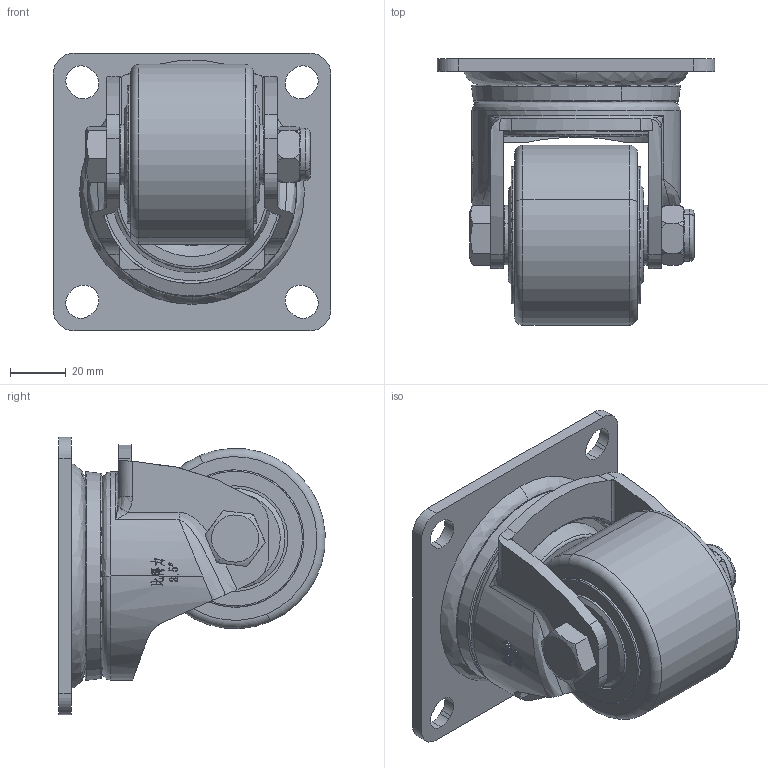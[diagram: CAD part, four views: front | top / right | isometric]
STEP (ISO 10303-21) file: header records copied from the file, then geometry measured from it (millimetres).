
FILE_DESCRIPTION (( 'STEP AP203' ), '1' );
FILE_NAME ('2.5寸万向（100＊100）.STEP', '2023-07-19T03:48:46', ( 'Microsoft' ), ( 'Microsoft' ), 'SwSTEP 2.0', 'SolidWorks 2016', '' );
FILE_SCHEMA (( 'CONFIG_CONTROL_DESIGN' ));
Length unit declared in the file: millimetre
Products named in the file (3): 2.5渡謫赽ㄗ65ㄙ47ㄘ; 2.5寸万向（100＊100）; 2.5寸万向（100＊100）-上托架
Assembly tree (2 placements, depth 2):
  2.5寸万向（100＊100）
    2.5寸万向（100＊100）-上托架
    2.5渡謫赽ㄗ65ㄙ47ㄘ
Bounding box: 100 x 95.95 x 100 mm (x, y, z)
Volume: 289102.5 mm3; surface area: 94301.3 mm2
Topology: 44 solids, 44 shells, 1141 faces, 3070 edges, 1903 vertices
Faces by surface type: plane 540, bspline 453, cylinder 123, cone 21, torus 4
Entity records: 58581 total; most frequent: CARTESIAN_POINT 34499, ORIENTED_EDGE 5812, DIRECTION 3684, EDGE_CURVE 2906, VERTEX_POINT 1903, LINE 1336, VECTOR 1336, EDGE_LOOP 1215
